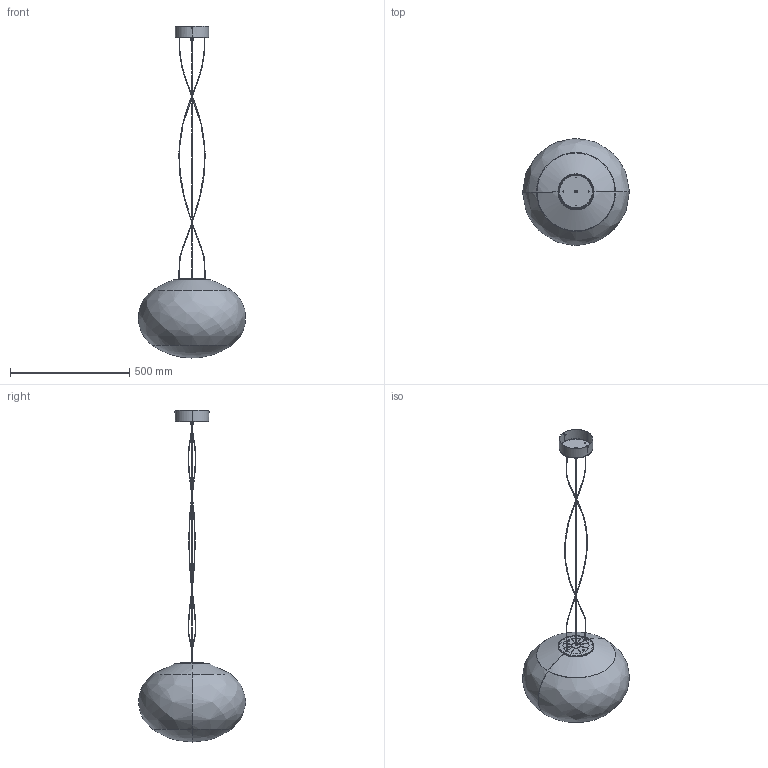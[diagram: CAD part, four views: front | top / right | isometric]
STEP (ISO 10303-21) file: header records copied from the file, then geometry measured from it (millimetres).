
FILE_DESCRIPTION(/* description */ (''),/* implementation_level */ '2;1');
FILE_NAME(/* name */ 'L065__.045.0402',/* time_stamp */ '2024-08-30T16:36:38+02:00',/* author */ (''),/* organization */ (''),/* preprocessor_version */ 'ST-DEVELOPER v16.5',/* originating_system */ '',/* authorisation */ '');
FILE_SCHEMA (('AUTOMOTIVE_DESIGN'));
Length unit declared in the file: millimetre
Products named in the file (1): Document
Bounding box: 449.39 x 450 x 1393.67 mm (x, y, z)
Volume: 1590169.1 mm3; surface area: 1159293.2 mm2
Topology: 20 solids, 20 shells, 470 faces, 1228 edges, 777 vertices
Faces by surface type: bspline 331, plane 139
Entity records: 29893 total; most frequent: CARTESIAN_POINT 22818, ORIENTED_EDGE 2432, EDGE_CURVE 1216, VERTEX_POINT 777, B_SPLINE_CURVE_WITH_KNOTS 643, EDGE_LOOP 517, ADVANCED_FACE 470, FACE_OUTER_BOUND 470
